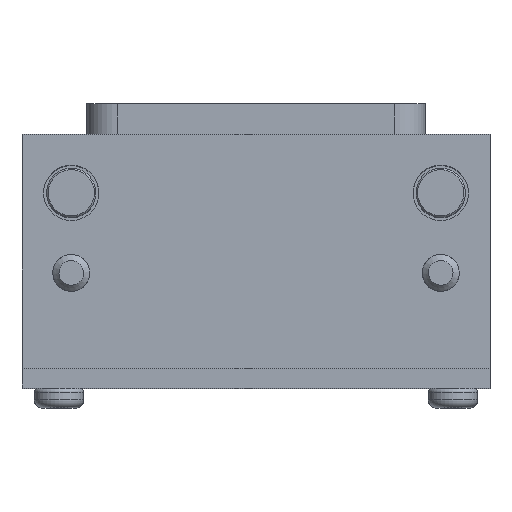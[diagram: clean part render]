
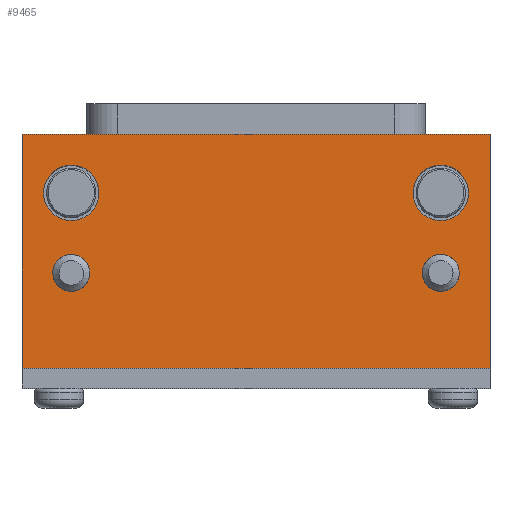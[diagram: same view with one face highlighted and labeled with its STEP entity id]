
A CAD part, top view. The second image highlights one B-rep face of the part: STEP entity #9465.
In plain terms, the highlighted planar face has unit normal (0, 0, 1).
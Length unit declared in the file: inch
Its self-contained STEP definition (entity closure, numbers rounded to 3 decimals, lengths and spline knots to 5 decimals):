
#680 = ORIENTED_EDGE ( 'NONE', *, *, #2162, .T. ) ;
#875 = EDGE_CURVE ( 'NONE', #4465, #4465, #4509, .T. ) ;
#1444 = VECTOR ( 'NONE', #4019, 39.37008 ) ;
#1503 = ORIENTED_EDGE ( 'NONE', *, *, #8607, .T. ) ;
#1530 = CIRCLE ( 'NONE', #6994, 0.05879 ) ;
#2035 = DIRECTION ( 'NONE',  ( -1., 0., 0. ) ) ;
#2045 = CARTESIAN_POINT ( 'NONE',  ( -0.74803, 0.37402, 0.49213 ) ) ;
#2062 = LINE ( 'NONE', #2045, #4737 ) ;
#2090 = VECTOR ( 'NONE', #9785, 39.37008 ) ;
#2148 = DIRECTION ( 'NONE',  ( 1., 0., 0. ) ) ;
#2150 = DIRECTION ( 'NONE',  ( 0., 0., 1. ) ) ;
#2160 = CARTESIAN_POINT ( 'NONE',  ( 0.59055, 0.0689, 0.49213 ) ) ;
#2162 = EDGE_CURVE ( 'NONE', #4204, #4204, #3124, .T. ) ;
#2422 = AXIS2_PLACEMENT_3D ( 'NONE', #8262, #8242, #8225 ) ;
#2786 = EDGE_CURVE ( 'NONE', #4007, #4007, #6584, .T. ) ;
#2893 = DIRECTION ( 'NONE',  ( 1., 0., 0. ) ) ;
#2959 = DIRECTION ( 'NONE',  ( 0., 0., 1. ) ) ;
#2969 = CARTESIAN_POINT ( 'NONE',  ( -0.59055, 0.0689, 0.49213 ) ) ;
#3124 = CIRCLE ( 'NONE', #3269, 0.08858 ) ;
#3269 = AXIS2_PLACEMENT_3D ( 'NONE', #7172, #7079, #7091 ) ;
#3607 = CARTESIAN_POINT ( 'NONE',  ( -0.53176, 0.0689, 0.49213 ) ) ;
#3615 = VERTEX_POINT ( 'NONE', #3607 ) ;
#3992 = CARTESIAN_POINT ( 'NONE',  ( -0.67913, -0.18701, 0.49213 ) ) ;
#4007 = VERTEX_POINT ( 'NONE', #3992 ) ;
#4019 = DIRECTION ( 'NONE',  ( 0., 1., 0. ) ) ;
#4040 = CARTESIAN_POINT ( 'NONE',  ( 0.74803, -0.37402, 0.49213 ) ) ;
#4053 = LINE ( 'NONE', #4040, #1444 ) ;
#4130 = EDGE_CURVE ( 'NONE', #3615, #3615, #1530, .T. ) ;
#4192 = CARTESIAN_POINT ( 'NONE',  ( 0.50197, -0.18701, 0.49213 ) ) ;
#4204 = VERTEX_POINT ( 'NONE', #4192 ) ;
#4309 = DIRECTION ( 'NONE',  ( 0., 0., -1. ) ) ;
#4348 = DIRECTION ( 'NONE',  ( -1., 0., 0. ) ) ;
#4454 = CARTESIAN_POINT ( 'NONE',  ( 0.64934, 0.0689, 0.49213 ) ) ;
#4465 = VERTEX_POINT ( 'NONE', #4454 ) ;
#4509 = CIRCLE ( 'NONE', #6066, 0.05879 ) ;
#4737 = VECTOR ( 'NONE', #2035, 39.37008 ) ;
#4900 = ORIENTED_EDGE ( 'NONE', *, *, #9151, .T. ) ;
#5235 = EDGE_LOOP ( 'NONE', ( #9706 ) ) ;
#5393 = EDGE_CURVE ( 'NONE', #7776, #9923, #9885, .T. ) ;
#5419 = CARTESIAN_POINT ( 'NONE',  ( -0.59055, -0.18701, 0.49213 ) ) ;
#5637 = VERTEX_POINT ( 'NONE', #8033 ) ;
#5678 = CARTESIAN_POINT ( 'NONE',  ( -0.74803, -0.37402, 0.49213 ) ) ;
#5753 = EDGE_CURVE ( 'NONE', #6217, #5637, #4053, .T. ) ;
#5798 = CARTESIAN_POINT ( 'NONE',  ( -0.74803, 0.37402, 0.49213 ) ) ;
#6066 = AXIS2_PLACEMENT_3D ( 'NONE', #2160, #2150, #2148 ) ;
#6217 = VERTEX_POINT ( 'NONE', #9185 ) ;
#6584 = CIRCLE ( 'NONE', #9846, 0.08858 ) ;
#6767 = EDGE_LOOP ( 'NONE', ( #680 ) ) ;
#6796 = ORIENTED_EDGE ( 'NONE', *, *, #5753, .T. ) ;
#6994 = AXIS2_PLACEMENT_3D ( 'NONE', #2969, #2959, #2893 ) ;
#7079 = DIRECTION ( 'NONE',  ( 0., 0., -1. ) ) ;
#7091 = DIRECTION ( 'NONE',  ( -1., 0., 0. ) ) ;
#7172 = CARTESIAN_POINT ( 'NONE',  ( 0.59055, -0.18701, 0.49213 ) ) ;
#7330 = ORIENTED_EDGE ( 'NONE', *, *, #4130, .F. ) ;
#7465 = EDGE_LOOP ( 'NONE', ( #7330 ) ) ;
#7776 = VERTEX_POINT ( 'NONE', #5798 ) ;
#8033 = CARTESIAN_POINT ( 'NONE',  ( 0.74803, 0.37402, 0.49213 ) ) ;
#8225 = DIRECTION ( 'NONE',  ( -1., 0., 0. ) ) ;
#8242 = DIRECTION ( 'NONE',  ( 0., 0., -1. ) ) ;
#8244 = EDGE_LOOP ( 'NONE', ( #9252 ) ) ;
#8262 = CARTESIAN_POINT ( 'NONE',  ( 0., 0., 0.49213 ) ) ;
#8279 = PLANE ( 'NONE',  #2422 ) ;
#8295 = FACE_OUTER_BOUND ( 'NONE', #8315, .T. ) ;
#8297 = FACE_BOUND ( 'NONE', #8244, .T. ) ;
#8315 = EDGE_LOOP ( 'NONE', ( #6796, #1503, #9267, #4900 ) ) ;
#8323 = FACE_BOUND ( 'NONE', #7465, .T. ) ;
#8337 = FACE_BOUND ( 'NONE', #6767, .T. ) ;
#8352 = FACE_BOUND ( 'NONE', #5235, .T. ) ;
#8607 = EDGE_CURVE ( 'NONE', #5637, #7776, #2062, .T. ) ;
#9151 = EDGE_CURVE ( 'NONE', #9923, #6217, #9330, .T. ) ;
#9185 = CARTESIAN_POINT ( 'NONE',  ( 0.74803, -0.37402, 0.49213 ) ) ;
#9252 = ORIENTED_EDGE ( 'NONE', *, *, #875, .F. ) ;
#9267 = ORIENTED_EDGE ( 'NONE', *, *, #5393, .T. ) ;
#9314 = DIRECTION ( 'NONE',  ( 1., 0., 0. ) ) ;
#9328 = CARTESIAN_POINT ( 'NONE',  ( -0.74803, -0.37402, 0.49213 ) ) ;
#9330 = LINE ( 'NONE', #9328, #10127 ) ;
#9465 = ADVANCED_FACE ( 'NONE', ( #8352, #8337, #8323, #8297, #8295 ), #8279, .F. ) ;
#9706 = ORIENTED_EDGE ( 'NONE', *, *, #2786, .T. ) ;
#9785 = DIRECTION ( 'NONE',  ( 0., -1., 0. ) ) ;
#9831 = CARTESIAN_POINT ( 'NONE',  ( -0.74803, -0.37402, 0.49213 ) ) ;
#9846 = AXIS2_PLACEMENT_3D ( 'NONE', #5419, #4309, #4348 ) ;
#9885 = LINE ( 'NONE', #9831, #2090 ) ;
#9923 = VERTEX_POINT ( 'NONE', #5678 ) ;
#10127 = VECTOR ( 'NONE', #9314, 39.37008 ) ;
